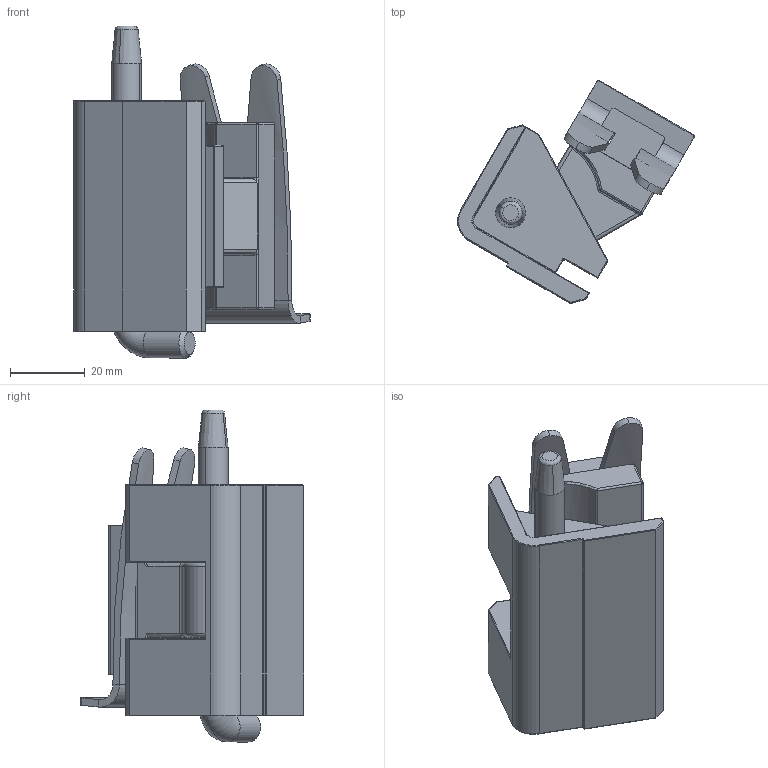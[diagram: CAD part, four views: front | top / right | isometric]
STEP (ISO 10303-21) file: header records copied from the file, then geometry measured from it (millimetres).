
FILE_DESCRIPTION (( 'STEP AP203' ), '1' );
FILE_NAME ('CL154Z1D001.STEP', '2016-07-13T06:06:28', ( 'master' ), ( 'Microsoft' ), 'SwSTEP 2.0', 'SolidWorks 2014', '' );
FILE_SCHEMA (( 'CONFIG_CONTROL_DESIGN' ));
Length unit declared in the file: millimetre
Products named in the file (5): 8SJ.CL154.0450雄蝓蟈_蝓蟈; cl154縐啣; CL154Z1D001; 8SJ.CL154.0460隅蝓蟈_蝓蟈; CL154蛌粣
Assembly tree (4 placements, depth 2):
  CL154Z1D001
    8SJ.CL154.0460隅蝓蟈_蝓蟈
    CL154蛌粣
    8SJ.CL154.0450雄蝓蟈_蝓蟈
    cl154縐啣
Bounding box: 63.45 x 59.88 x 89 mm (x, y, z)
Volume: 66288.9 mm3; surface area: 27354.1 mm2
Topology: 4 solids, 4 shells, 276 faces, 656 edges, 370 vertices
Faces by surface type: cylinder 119, plane 70, torus 33, sphere 30, bspline 20, cone 4
Entity records: 9031 total; most frequent: CARTESIAN_POINT 2350, DIRECTION 1362, ORIENTED_EDGE 1270, EDGE_CURVE 635, AXIS2_PLACEMENT_3D 532, VERTEX_POINT 368, LINE 298, VECTOR 298
